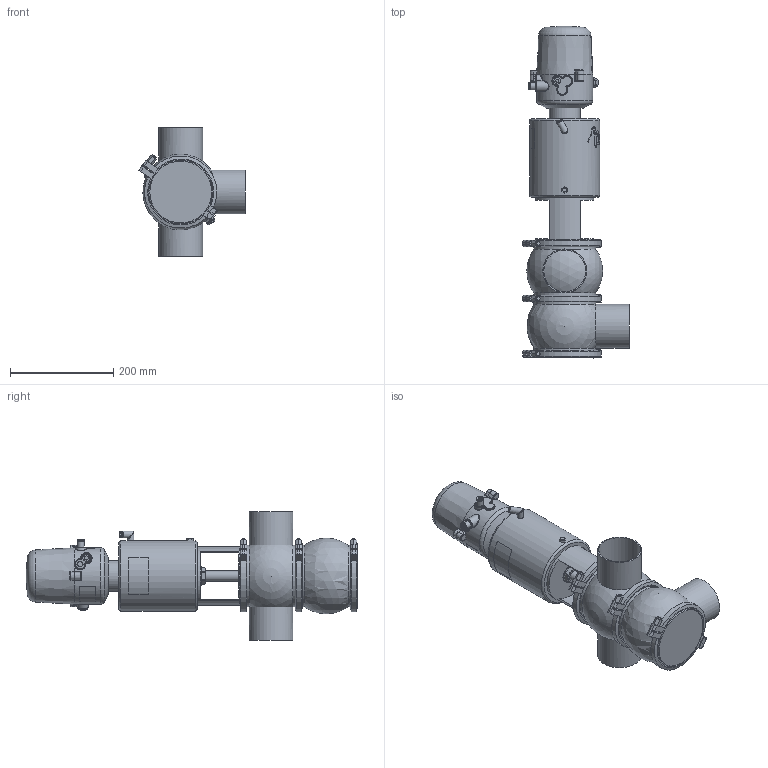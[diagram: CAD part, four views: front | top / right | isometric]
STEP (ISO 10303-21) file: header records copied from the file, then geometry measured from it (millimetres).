
FILE_DESCRIPTION (( 'STEP AP214' ), '1' );
FILE_NAME ('INNOVA M A W DIN 080 T3 AS NC & C-TOP S_10.241.16.0037.STEP', '2024-08-07T07:02:03', ( '' ), ( '' ), 'SwSTEP 2.0', 'SolidWorks 2023', '' );
FILE_SCHEMA (( 'AUTOMOTIVE_DESIGN' ));
Length unit declared in the file: millimetre
Products named in the file (9): INNOVA M A W DIN 080 T3 AS NC & C-TOP S_10.241.16.0037; 10.240.15.0006_DIN 080; 10.240.15.0017_Estàndard; 10.240.15.0014_T3 AS P180; 10.240.15.0010_DN 080; 10.240.15.0001_DN 080; 10.241.15.0001_DIN 080; 10.426.15.0001_C-TOP S - 1 EV; 10.240.15.0007_DIN 080
Assembly tree (10 placements, depth 2):
  INNOVA M A W DIN 080 T3 AS NC & C-TOP S_10.241.16.0037
    10.240.15.0007_DIN 080
    10.240.15.0006_DIN 080
    10.240.15.0010_DN 080
    10.240.15.0014_T3 AS P180
    10.240.15.0017_Estàndard
    10.426.15.0001_C-TOP S - 1 EV
    10.240.15.0001_DN 080  x3
    10.241.15.0001_DIN 080
Bounding box: 206.43 x 643.63 x 250 mm (x, y, z)
Volume: 7296992.6 mm3; surface area: 616947.5 mm2
Topology: 11 solids, 11 shells, 1239 faces, 3023 edges, 2008 vertices
Faces by surface type: plane 443, cylinder 379, cone 211, bspline 160, torus 36, sphere 10
Full cylindrical faces by diameter (mm): 0.371 x17, 0.512 x16, 0.658 x16, 0.795 x16, 0.94 x15, 1.098 x15, 1.241 x13, 1.382 x13, 1.523 x11, 1.669 x10, 2.201 x1, 4 x2, 5.5 x2, 6 x2, 6.15 x1, 8 x8, 8.5 x1, 10 x1, 10.5 x1, 11 x2, 12.5 x3, 13 x2, 13.5 x2, 16 x1, 17 x3, 20 x3, 20.5 x1, 22 x2, 31 x1, 34.5 x3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
Entity records: 58210 total; most frequent: CARTESIAN_POINT 27817, ORIENTED_EDGE 4538, DIRECTION 3685, EDGE_CURVE 2269, VERTEX_POINT 1614, EDGE_LOOP 1575, AXIS2_PLACEMENT_3D 1514, FACE_OUTER_BOUND 1338
